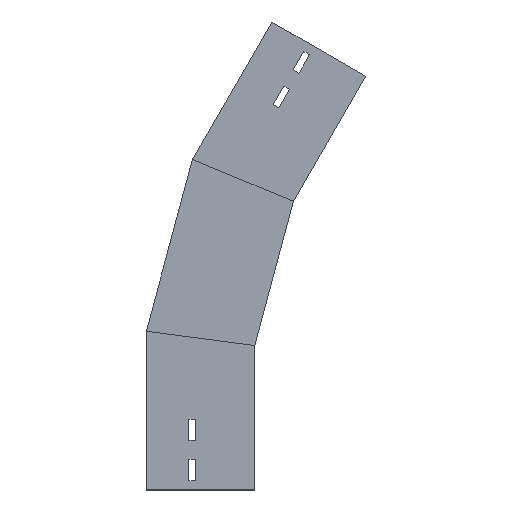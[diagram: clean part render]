
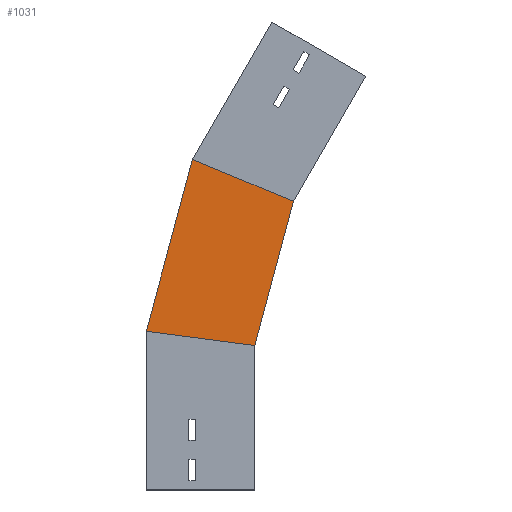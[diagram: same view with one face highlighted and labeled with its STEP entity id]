
A CAD part, left-side view. The second image highlights one B-rep face of the part: STEP entity #1031.
In plain terms, the highlighted planar face has unit normal (-1, 0, 0) as drawn and (1, 0, 0) by its records, which use the part's own axes.
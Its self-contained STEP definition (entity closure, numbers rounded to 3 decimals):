
#71 = CARTESIAN_POINT ( 'NONE',  ( 0., 112.5, 164.811 ) ) ;
#85 = DIRECTION ( 'NONE',  ( 1., 0., 0. ) ) ;
#92 = LINE ( 'NONE', #1250, #1056 ) ;
#184 = PLANE ( 'NONE',  #959 ) ;
#278 = CARTESIAN_POINT ( 'NONE',  ( 0., 0., 150. ) ) ;
#293 = EDGE_CURVE ( 'NONE', #1003, #1459, #439, .T. ) ;
#439 = LINE ( 'NONE', #1357, #1285 ) ;
#472 = VECTOR ( 'NONE', #646, 1000. ) ;
#551 = CARTESIAN_POINT ( 'NONE',  ( 0., 4.243, 134.167 ) ) ;
#574 = CARTESIAN_POINT ( 'NONE',  ( 0., -40.117, 299.719 ) ) ;
#614 = VECTOR ( 'NONE', #1092, 1000. ) ;
#627 = EDGE_LOOP ( 'NONE', ( #1342, #1237, #921, #1002 ) ) ;
#646 = DIRECTION ( 'NONE',  ( 0., -0.259, 0.966 ) ) ;
#707 = LINE ( 'NONE', #1162, #614 ) ;
#744 = EDGE_CURVE ( 'NONE', #1352, #1212, #707, .T. ) ;
#746 = LINE ( 'NONE', #878, #472 ) ;
#757 = DIRECTION ( 'NONE',  ( 0., -0.924, -0.383 ) ) ;
#764 = DIRECTION ( 'NONE',  ( 0., -0.259, 0.966 ) ) ;
#877 = EDGE_CURVE ( 'NONE', #1352, #1003, #92, .T. ) ;
#878 = CARTESIAN_POINT ( 'NONE',  ( 0., 4.243, 134.167 ) ) ;
#921 = ORIENTED_EDGE ( 'NONE', *, *, #1104, .F. ) ;
#950 = CARTESIAN_POINT ( 'NONE',  ( 0., 64.716, 343.142 ) ) ;
#959 = AXIS2_PLACEMENT_3D ( 'NONE', #551, #85, #1481 ) ;
#1002 = ORIENTED_EDGE ( 'NONE', *, *, #744, .F. ) ;
#1003 = VERTEX_POINT ( 'NONE', #950 ) ;
#1031 = ADVANCED_FACE ( 'NONE', ( #1346 ), #184, .T. ) ;
#1056 = VECTOR ( 'NONE', #764, 1000. ) ;
#1092 = DIRECTION ( 'NONE',  ( 0., -0.991, -0.131 ) ) ;
#1104 = EDGE_CURVE ( 'NONE', #1212, #1459, #746, .T. ) ;
#1162 = CARTESIAN_POINT ( 'NONE',  ( 0., -19.411, 147.444 ) ) ;
#1212 = VERTEX_POINT ( 'NONE', #278 ) ;
#1237 = ORIENTED_EDGE ( 'NONE', *, *, #293, .T. ) ;
#1250 = CARTESIAN_POINT ( 'NONE',  ( 0., 112.909, 163.284 ) ) ;
#1285 = VECTOR ( 'NONE', #757, 1000. ) ;
#1342 = ORIENTED_EDGE ( 'NONE', *, *, #877, .T. ) ;
#1346 = FACE_OUTER_BOUND ( 'NONE', #627, .T. ) ;
#1352 = VERTEX_POINT ( 'NONE', #71 ) ;
#1357 = CARTESIAN_POINT ( 'NONE',  ( 0., -60.785, 291.157 ) ) ;
#1459 = VERTEX_POINT ( 'NONE', #574 ) ;
#1481 = DIRECTION ( 'NONE',  ( 0., 0., -1. ) ) ;
